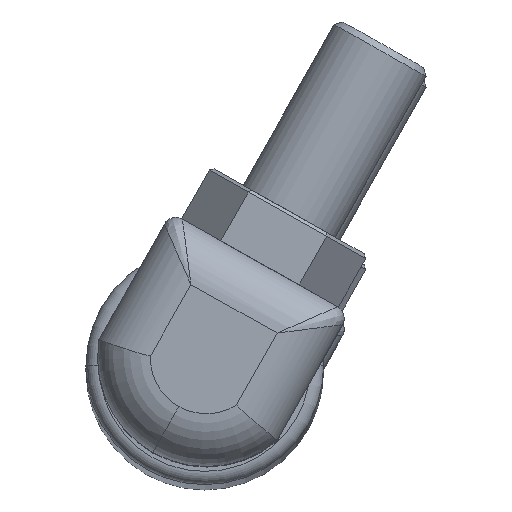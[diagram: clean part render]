
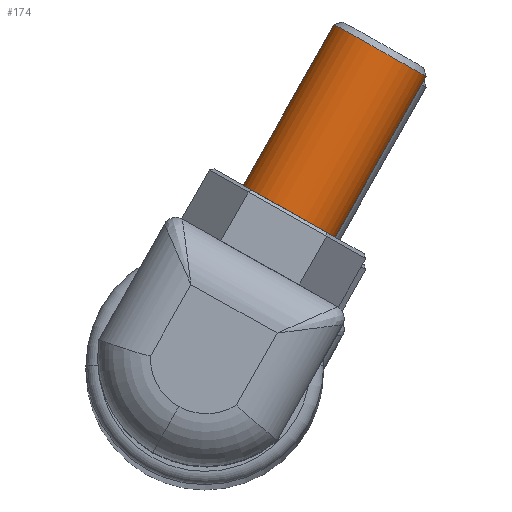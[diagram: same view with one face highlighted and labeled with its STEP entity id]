
A CAD part, top view. The second image highlights one B-rep face of the part: STEP entity #174.
In plain terms, the highlighted cylindrical face has radius 4 mm (diameter 8 mm), a partial arc.
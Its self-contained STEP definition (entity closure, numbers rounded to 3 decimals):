
#68 = CARTESIAN_POINT ( 'NONE',  ( 4., 19., -26.75 ) ) ;
#106 = AXIS2_PLACEMENT_3D ( 'NONE', #2244, #1267, #526 ) ;
#109 = AXIS2_PLACEMENT_3D ( 'NONE', #1834, #2200, #902 ) ;
#149 = DIRECTION ( 'NONE',  ( 1., 0., 0. ) ) ;
#161 = EDGE_CURVE ( 'NONE', #295, #698, #312, .T. ) ;
#165 = DIRECTION ( 'NONE',  ( 0., 0., 1. ) ) ;
#174 = ADVANCED_FACE ( 'NONE', ( #718 ), #333, .T. ) ;
#286 = CARTESIAN_POINT ( 'NONE',  ( -4., 19., -27.25 ) ) ;
#295 = VERTEX_POINT ( 'NONE', #68 ) ;
#312 = CIRCLE ( 'NONE', #106, 4. ) ;
#333 = CYLINDRICAL_SURFACE ( 'NONE', #1129, 4. ) ;
#342 = CARTESIAN_POINT ( 'NONE',  ( 0., 19., -27.25 ) ) ;
#352 = VECTOR ( 'NONE', #1480, 1000. ) ;
#481 = EDGE_CURVE ( 'NONE', #295, #2172, #934, .T. ) ;
#526 = DIRECTION ( 'NONE',  ( -1., 0., 0. ) ) ;
#587 = VECTOR ( 'NONE', #1426, 1000. ) ;
#650 = ORIENTED_EDGE ( 'NONE', *, *, #1560, .T. ) ;
#698 = VERTEX_POINT ( 'NONE', #1219 ) ;
#718 = FACE_OUTER_BOUND ( 'NONE', #1332, .T. ) ;
#902 = DIRECTION ( 'NONE',  ( -1., 0., 0. ) ) ;
#934 = LINE ( 'NONE', #2057, #352 ) ;
#1091 = ORIENTED_EDGE ( 'NONE', *, *, #481, .F. ) ;
#1129 = AXIS2_PLACEMENT_3D ( 'NONE', #342, #165, #149 ) ;
#1219 = CARTESIAN_POINT ( 'NONE',  ( -4., 19., -26.75 ) ) ;
#1267 = DIRECTION ( 'NONE',  ( 0., 0., 1. ) ) ;
#1332 = EDGE_LOOP ( 'NONE', ( #1826, #1601, #650, #1091 ) ) ;
#1365 = EDGE_CURVE ( 'NONE', #698, #2136, #1993, .T. ) ;
#1426 = DIRECTION ( 'NONE',  ( 0., 0., 1. ) ) ;
#1480 = DIRECTION ( 'NONE',  ( 0., 0., 1. ) ) ;
#1492 = CIRCLE ( 'NONE', #109, 4. ) ;
#1560 = EDGE_CURVE ( 'NONE', #2136, #2172, #1492, .T. ) ;
#1601 = ORIENTED_EDGE ( 'NONE', *, *, #1365, .T. ) ;
#1619 = CARTESIAN_POINT ( 'NONE',  ( -4., 19., -12.75 ) ) ;
#1826 = ORIENTED_EDGE ( 'NONE', *, *, #161, .T. ) ;
#1834 = CARTESIAN_POINT ( 'NONE',  ( 0., 19., -12.75 ) ) ;
#1993 = LINE ( 'NONE', #286, #587 ) ;
#2057 = CARTESIAN_POINT ( 'NONE',  ( 4., 19., -27.25 ) ) ;
#2136 = VERTEX_POINT ( 'NONE', #1619 ) ;
#2172 = VERTEX_POINT ( 'NONE', #2176 ) ;
#2176 = CARTESIAN_POINT ( 'NONE',  ( 4., 19., -12.75 ) ) ;
#2200 = DIRECTION ( 'NONE',  ( 0., 0., -1. ) ) ;
#2244 = CARTESIAN_POINT ( 'NONE',  ( 0., 19., -26.75 ) ) ;
